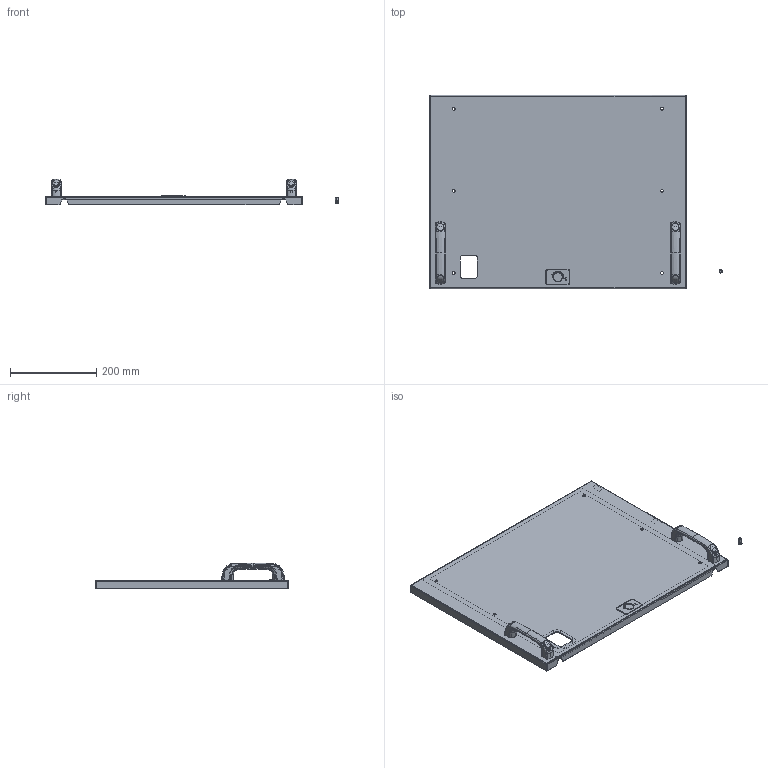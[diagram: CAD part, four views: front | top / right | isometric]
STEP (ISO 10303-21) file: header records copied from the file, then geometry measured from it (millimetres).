
FILE_DESCRIPTION(('CAx-IF Rec.Pracs.---Model Styling and Organization---1.2---2011-12-15','CAx-IF Rec.Pracs.---Geometric and Assembly Validation Properties---4.1---2014-06-16','CAx-IF Rec.Pracs.---PMI Polyline Presentation---2.0---2013-05-24'),'2;1');
FILE_NAME('R5M2W9M1BF.stp','2021-05-05T12:35:59+03:00',(''),(''),'STEP Interface 4.4 by CT CoreTechnologie','3D_Evolution4.4 by CT CoreTechnologie','');
FILE_SCHEMA(('AUTOMOTIVE_DESIGN { 1 0 10303 214 1 1 1 1 }'));
Length unit declared in the file: millimetre
Products named in the file (16): R5M2W9M1BF; Ì6õ12-A5100231_straight; RB.1166.00.05.0; AC00C148_AC00C148; PF 3.5x7 RAMmcc 2.0_00; 4.444.002(1); PR.DT477.120.02-poprawa; PR.DT477.120.01; RB.1166.00.01.0_-04; countersunk flat head cross recess screw_din_DIN EN ISO 7046-1 - M6 x 16 - Z - 16N; RB.1166.00.02.0_¢ à 1; Ì6-GOST 5915-70 (DIN 934) (CM110600)_straight; RB.1166.00.04.0_-00; 4.444.002(2); PF 7x14 RAMmcc 2.0_91; AC00C061_AC00C061
Assembly tree (27 placements, depth 3):
  R5M2W9M1BF
    Ì6õ12-A5100231_straight
    RB.1166.00.05.0  x3
    AC00C148_AC00C148  x3
    PF 3.5x7 RAMmcc 2.0_00
    4.444.002(1)
      PR.DT477.120.02-poprawa  x2
      PR.DT477.120.01
    RB.1166.00.01.0_-04
    countersunk flat head cross recess screw_din_DIN EN ISO 7046-1 - M6 x 16 - Z - 16N  x4
    RB.1166.00.02.0_¢ à 1
    Ì6-GOST 5915-70 (DIN 934) (CM110600)_straight  x2
    RB.1166.00.04.0_-00
    4.444.002(2)
      PR.DT477.120.02-poprawa  x2
      PR.DT477.120.01
    PF 7x14 RAMmcc 2.0_91
    AC00C061_AC00C061
Bounding box: 678 x 447 x 60 mm (x, y, z)
Surface area: 733973.3 mm2 (no closed solid volume)
Topology: 0 solids, 34 shells, 2124 faces, 5259 edges, 3183 vertices
Faces by surface type: bspline 1095, plane 674, cylinder 355
Entity records: 45123 total; most frequent: CARTESIAN_POINT 20920, ORIENTED_EDGE 5116, DIRECTION 4675, EDGE_CURVE 2558, AXIS2_PLACEMENT_3D 1774, VERTEX_POINT 1570, CIRCLE 1227, VECTOR 1127
